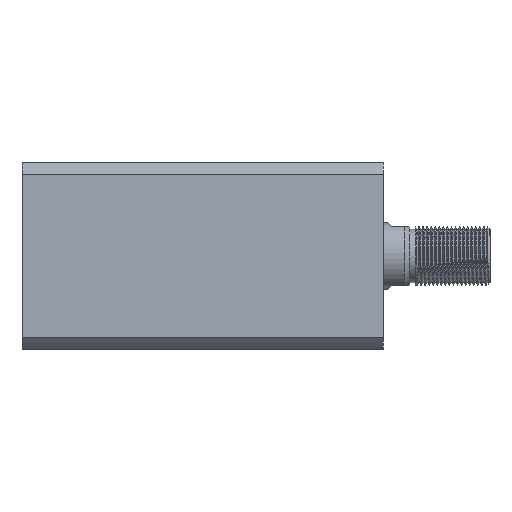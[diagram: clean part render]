
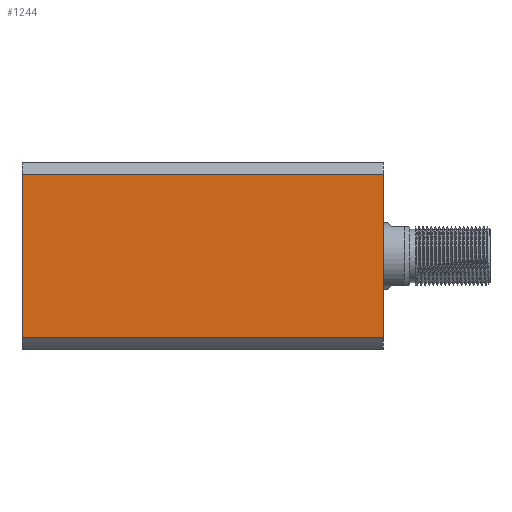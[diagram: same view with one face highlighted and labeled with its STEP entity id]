
A CAD part, left-side view. The second image highlights one B-rep face of the part: STEP entity #1244.
In plain terms, the highlighted planar face has unit normal (-1, 0, 0).
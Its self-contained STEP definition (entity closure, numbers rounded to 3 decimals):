
#320 = AXIS2_PLACEMENT_3D ( 'NONE', #2742, #1704, #1664 ) ;
#631 = CARTESIAN_POINT ( 'NONE',  ( -35., 30.615, 0. ) ) ;
#861 = LINE ( 'NONE', #2584, #8697 ) ;
#1042 = EDGE_CURVE ( 'NONE', #1079, #13005, #2519, .T. ) ;
#1079 = VERTEX_POINT ( 'NONE', #11118 ) ;
#1119 = ORIENTED_EDGE ( 'NONE', *, *, #4826, .T. ) ;
#1244 = ADVANCED_FACE ( 'NONE', ( #3683 ), #9186, .F. ) ;
#1664 = DIRECTION ( 'NONE',  ( 0., 1., 0. ) ) ;
#1704 = DIRECTION ( 'NONE',  ( 1., 0., 0. ) ) ;
#2033 = DIRECTION ( 'NONE',  ( 0., 0., 1. ) ) ;
#2066 = CARTESIAN_POINT ( 'NONE',  ( -35., 35., 135. ) ) ;
#2286 = VECTOR ( 'NONE', #5892, 1000. ) ;
#2319 = ORIENTED_EDGE ( 'NONE', *, *, #7939, .F. ) ;
#2519 = LINE ( 'NONE', #2066, #12799 ) ;
#2584 = CARTESIAN_POINT ( 'NONE',  ( -35., 35., 0. ) ) ;
#2678 = DIRECTION ( 'NONE',  ( 0., -1., 0. ) ) ;
#2742 = CARTESIAN_POINT ( 'NONE',  ( -35., 35., 135. ) ) ;
#3033 = DIRECTION ( 'NONE',  ( 0., -1., 0. ) ) ;
#3097 = LINE ( 'NONE', #10520, #8138 ) ;
#3683 = FACE_OUTER_BOUND ( 'NONE', #13640, .T. ) ;
#3902 = VERTEX_POINT ( 'NONE', #12444 ) ;
#4826 = EDGE_CURVE ( 'NONE', #9573, #3902, #861, .T. ) ;
#5292 = ORIENTED_EDGE ( 'NONE', *, *, #1042, .F. ) ;
#5892 = DIRECTION ( 'NONE',  ( 0., 0., -1. ) ) ;
#7939 = EDGE_CURVE ( 'NONE', #13005, #3902, #7978, .T. ) ;
#7978 = LINE ( 'NONE', #10978, #2286 ) ;
#8138 = VECTOR ( 'NONE', #2033, 1000. ) ;
#8697 = VECTOR ( 'NONE', #2678, 1000. ) ;
#9186 = PLANE ( 'NONE',  #320 ) ;
#9573 = VERTEX_POINT ( 'NONE', #631 ) ;
#10064 = ORIENTED_EDGE ( 'NONE', *, *, #13119, .F. ) ;
#10520 = CARTESIAN_POINT ( 'NONE',  ( -35., 30.615, 300. ) ) ;
#10978 = CARTESIAN_POINT ( 'NONE',  ( -35., -30.615, 300. ) ) ;
#11118 = CARTESIAN_POINT ( 'NONE',  ( -35., 30.615, 135. ) ) ;
#12444 = CARTESIAN_POINT ( 'NONE',  ( -35., -30.615, 0. ) ) ;
#12564 = CARTESIAN_POINT ( 'NONE',  ( -35., -30.615, 135. ) ) ;
#12799 = VECTOR ( 'NONE', #3033, 1000. ) ;
#13005 = VERTEX_POINT ( 'NONE', #12564 ) ;
#13119 = EDGE_CURVE ( 'NONE', #9573, #1079, #3097, .T. ) ;
#13640 = EDGE_LOOP ( 'NONE', ( #2319, #5292, #10064, #1119 ) ) ;
